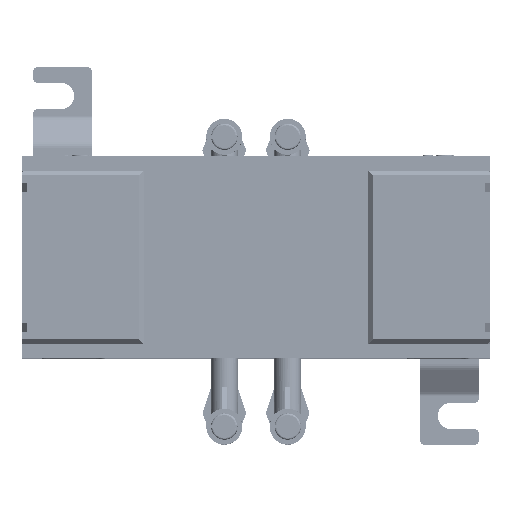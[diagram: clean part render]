
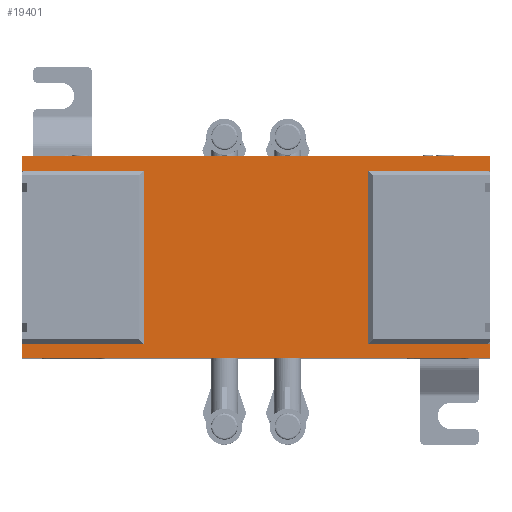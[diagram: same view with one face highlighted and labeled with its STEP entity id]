
A CAD part, top view. The second image highlights one B-rep face of the part: STEP entity #19401.
In plain terms, the highlighted planar face has unit normal (0, 0, 1).
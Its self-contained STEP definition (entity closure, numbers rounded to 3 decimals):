
#1680=PLANE('',#20999);
#2650=FACE_OUTER_BOUND('',#3755,.T.);
#3755=EDGE_LOOP('',(#16718,#16719,#16720,#16721,#16722,#16723,#16724,#16725,
#16726,#16727,#16728,#16729));
#4886=LINE('',#116594,#6539);
#5161=LINE('',#118308,#6814);
#5214=LINE('',#118442,#6867);
#5217=LINE('',#118447,#6870);
#5219=LINE('',#118451,#6872);
#5221=LINE('',#118456,#6874);
#5224=LINE('',#118461,#6877);
#5226=LINE('',#118465,#6879);
#5228=LINE('',#118468,#6881);
#5229=LINE('',#118469,#6882);
#5230=LINE('',#118470,#6883);
#5231=LINE('',#118471,#6884);
#6539=VECTOR('',#23819,1.);
#6814=VECTOR('',#24382,1.);
#6867=VECTOR('',#24491,1.);
#6870=VECTOR('',#24496,1.);
#6872=VECTOR('',#24500,1.);
#6874=VECTOR('',#24504,1.);
#6877=VECTOR('',#24509,1.);
#6879=VECTOR('',#24513,1.);
#6881=VECTOR('',#24517,1.);
#6882=VECTOR('',#24518,1.);
#6883=VECTOR('',#24519,1.);
#6884=VECTOR('',#24520,1.);
#8795=VERTEX_POINT('',#116591);
#8796=VERTEX_POINT('',#116593);
#9084=VERTEX_POINT('',#118305);
#9085=VERTEX_POINT('',#118307);
#9137=VERTEX_POINT('',#118440);
#9138=VERTEX_POINT('',#118441);
#9139=VERTEX_POINT('',#118446);
#9140=VERTEX_POINT('',#118450);
#9141=VERTEX_POINT('',#118454);
#9142=VERTEX_POINT('',#118455);
#9143=VERTEX_POINT('',#118460);
#9144=VERTEX_POINT('',#118464);
#11251=EDGE_CURVE('',#8796,#8795,#4886,.T.);
#11678=EDGE_CURVE('',#9085,#9084,#5161,.T.);
#11744=EDGE_CURVE('',#9137,#9138,#5214,.T.);
#11747=EDGE_CURVE('',#9138,#9139,#5217,.T.);
#11749=EDGE_CURVE('',#9139,#9140,#5219,.T.);
#11751=EDGE_CURVE('',#9141,#9142,#5221,.T.);
#11754=EDGE_CURVE('',#9142,#9143,#5224,.T.);
#11756=EDGE_CURVE('',#9144,#9141,#5226,.T.);
#11758=EDGE_CURVE('',#9140,#8796,#5228,.T.);
#11759=EDGE_CURVE('',#9144,#8795,#5229,.T.);
#11760=EDGE_CURVE('',#9085,#9143,#5230,.T.);
#11761=EDGE_CURVE('',#9084,#9137,#5231,.T.);
#16718=ORIENTED_EDGE('',*,*,#11744,.T.);
#16719=ORIENTED_EDGE('',*,*,#11747,.T.);
#16720=ORIENTED_EDGE('',*,*,#11749,.T.);
#16721=ORIENTED_EDGE('',*,*,#11758,.T.);
#16722=ORIENTED_EDGE('',*,*,#11251,.T.);
#16723=ORIENTED_EDGE('',*,*,#11759,.F.);
#16724=ORIENTED_EDGE('',*,*,#11756,.T.);
#16725=ORIENTED_EDGE('',*,*,#11751,.T.);
#16726=ORIENTED_EDGE('',*,*,#11754,.T.);
#16727=ORIENTED_EDGE('',*,*,#11760,.F.);
#16728=ORIENTED_EDGE('',*,*,#11678,.T.);
#16729=ORIENTED_EDGE('',*,*,#11761,.T.);
#19401=ADVANCED_FACE('',(#2650),#1680,.T.);
#20999=AXIS2_PLACEMENT_3D('',#118467,#24515,#24516);
#23819=DIRECTION('',(-1.,0.,0.));
#24382=DIRECTION('',(1.,0.,0.));
#24491=DIRECTION('',(-1.,0.,0.));
#24496=DIRECTION('',(0.,1.,0.));
#24500=DIRECTION('',(1.,0.,0.));
#24504=DIRECTION('',(0.,-1.,0.));
#24509=DIRECTION('',(-1.,0.,0.));
#24513=DIRECTION('',(1.,0.,0.));
#24515=DIRECTION('center_axis',(0.,0.,1.));
#24516=DIRECTION('ref_axis',(1.,0.,0.));
#24517=DIRECTION('',(0.,1.,0.));
#24518=DIRECTION('',(0.,1.,0.));
#24519=DIRECTION('',(0.,1.,0.));
#24520=DIRECTION('',(0.,1.,0.));
#116591=CARTESIAN_POINT('',(2830.029,-1387.83,-90.631));
#116593=CARTESIAN_POINT('',(2934.029,-1387.83,-90.631));
#116594=CARTESIAN_POINT('',(2830.029,-1387.83,-90.631));
#118305=CARTESIAN_POINT('',(2934.029,-1432.83,-90.631));
#118307=CARTESIAN_POINT('',(2830.029,-1432.83,-90.631));
#118308=CARTESIAN_POINT('',(2830.029,-1432.83,-90.631));
#118440=CARTESIAN_POINT('',(2934.029,-1429.58,-90.631));
#118441=CARTESIAN_POINT('',(2907.029,-1429.58,-90.631));
#118442=CARTESIAN_POINT('',(2934.029,-1429.58,-90.631));
#118446=CARTESIAN_POINT('',(2907.029,-1391.08,-90.631));
#118447=CARTESIAN_POINT('',(2907.029,-1431.205,-90.631));
#118450=CARTESIAN_POINT('',(2934.029,-1391.08,-90.631));
#118451=CARTESIAN_POINT('',(2920.529,-1391.08,-90.631));
#118454=CARTESIAN_POINT('',(2857.029,-1391.08,-90.631));
#118455=CARTESIAN_POINT('',(2857.029,-1429.58,-90.631));
#118456=CARTESIAN_POINT('',(2857.029,-1411.955,-90.631));
#118460=CARTESIAN_POINT('',(2830.029,-1429.58,-90.631));
#118461=CARTESIAN_POINT('',(2895.529,-1429.58,-90.631));
#118464=CARTESIAN_POINT('',(2830.029,-1391.08,-90.631));
#118465=CARTESIAN_POINT('',(2882.029,-1391.08,-90.631));
#118467=CARTESIAN_POINT('Origin',(2934.029,-1432.83,-90.631));
#118468=CARTESIAN_POINT('',(2934.029,-1432.83,-90.631));
#118469=CARTESIAN_POINT('',(2830.029,-1432.83,-90.631));
#118470=CARTESIAN_POINT('',(2830.029,-1432.83,-90.631));
#118471=CARTESIAN_POINT('',(2934.029,-1432.83,-90.631));
